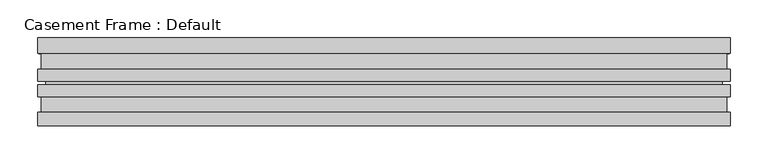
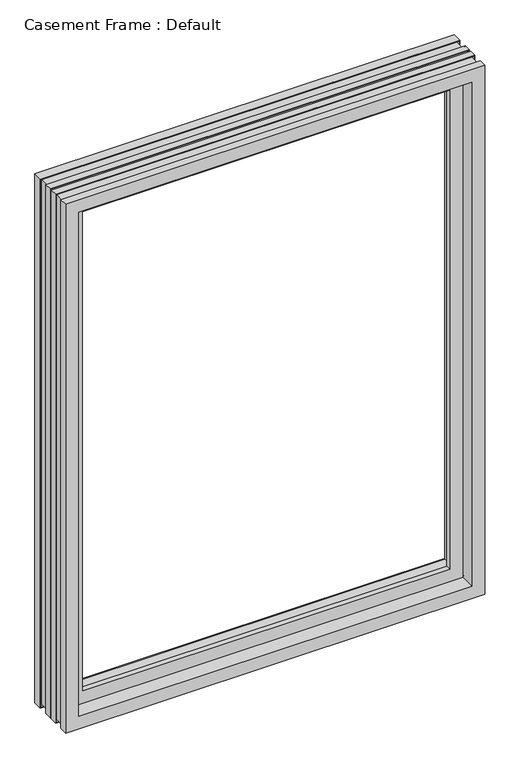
"""IFC4 building model written with IfcOpenShell, lengths in millimetres: proxy geometry, Casement Frame : Default."""

from ifc_helpers import new_model, si_unit, frame, origin, place, context, project, spatial, polyline, ellipse_curve, source, transform, mapped, element, save
from ifc_brep_helpers import plane_surface, revolved_surface, advanced_brep


def casement_frame_default_7da590ba(model_context):
    return source(origin(), model_context, "Body", "AdvancedBrep", [
        advanced_brep(
        [(428.625, -82.55, 790.575), (-428.625, -82.55, 790.575), (-428.625, -115.8875, 790.575), (428.625, -115.8875, 790.575), (400.05, -69.85, 819.15), (-400.05, -69.85, 819.15), (-400.05, -82.55, 819.15), (400.05, -82.55, 819.15), (428.625, -14.2875, 790.575), (-428.625, -14.2875, 790.575), (-428.625, -69.85, 790.575), (428.625, -69.85, 790.575), (-428.625, -82.55, 1952.625), (-428.625, -115.8875, 1952.625), (-400.05, -69.85, 1924.05), (-400.05, -82.55, 1924.05), (-428.625, -14.2875, 1952.625), (-428.625, -69.85, 1952.625), (428.625, -82.55, 1952.625), (428.625, -115.8875, 1952.625), (400.05, -69.85, 1924.05), (400.05, -82.55, 1924.05), (428.625, -14.2875, 1952.625), (428.625, -69.85, 1952.625), (457.2, 0.0, 762.0), (-457.2, 0.0, 762.0), (-457.2, 0.0, 1981.2), (457.2, 0.0, 1981.2), (-438.15, 0.0, 781.05), (438.15, 0.0, 781.05), (438.15, 0.0, 1962.15), (-438.15, 0.0, 1962.15), (-457.2, -115.8875, 762.0), (457.2, -115.8875, 762.0), (457.2, -115.8875, 1981.2), (-457.2, -115.8875, 1981.2), (-438.15, -14.2875, 781.05), (438.15, -14.2875, 781.05), (-438.15, -14.2875, 1962.15), (438.15, -14.2875, 1962.15), (457.2, -20.6375, 762.0), (-457.2, -20.6375, 762.0), (454.421875, -17.4625, 764.778125), (-454.421875, -17.4625, 764.778125), (-456.009375, -20.6375, 763.190625), (456.009375, -20.6375, 763.190625), (452.4375, -44.45, 766.7625), (-452.4375, -44.45, 766.7625), (-452.4375, -17.4625, 766.7625), (452.4375, -17.4625, 766.7625), (456.009375, -41.275, 763.190625), (-456.009375, -41.275, 763.190625), (-454.421875, -44.45, 764.778125), (454.421875, -44.45, 764.778125), (457.2, -57.15, 762.0), (-457.2, -57.15, 762.0), (-457.2, -41.275, 762.0), (457.2, -41.275, 762.0), (455.6125, -61.9125, 763.5875), (-455.6125, -61.9125, 763.5875), (-455.6125, -57.15, 763.5875), (455.6125, -57.15, 763.5875), (457.2, -77.7875, 762.0), (-457.2, -77.7875, 762.0), (-457.2, -61.9125, 762.0), (457.2, -61.9125, 762.0), (454.421875, -74.6125, 764.778125), (-454.421875, -74.6125, 764.778125), (-456.009375, -77.7875, 763.190625), (456.009375, -77.7875, 763.190625), (452.4375, -101.6, 766.7625), (-452.4375, -101.6, 766.7625), (-452.4375, -74.6125, 766.7625), (452.4375, -74.6125, 766.7625), (456.009375, -98.425, 763.190625), (-456.009375, -98.425, 763.190625), (-454.421875, -101.6, 764.778125), (454.421875, -101.6, 764.778125), (-457.2, -98.425, 762.0), (457.2, -98.425, 762.0), (-457.2, -20.6375, 1981.2), (-454.421875, -17.4625, 1978.421875), (-456.009375, -20.6375, 1980.009375), (-452.4375, -44.45, 1976.4375), (-452.4375, -17.4625, 1976.4375), (-456.009375, -41.275, 1980.009375), (-454.421875, -44.45, 1978.421875), (-457.2, -57.15, 1981.2), (-457.2, -41.275, 1981.2), (-455.6125, -61.9125, 1979.6125), (-455.6125, -57.15, 1979.6125), (-457.2, -77.7875, 1981.2), (-457.2, -61.9125, 1981.2), (-454.421875, -74.6125, 1978.421875), (-456.009375, -77.7875, 1980.009375), (-452.4375, -101.6, 1976.4375), (-452.4375, -74.6125, 1976.4375), (-456.009375, -98.425, 1980.009375), (-454.421875, -101.6, 1978.421875), (-457.2, -98.425, 1981.2), (457.2, -20.6375, 1981.2), (454.421875, -17.4625, 1978.421875), (456.009375, -20.6375, 1980.009375), (452.4375, -44.45, 1976.4375), (452.4375, -17.4625, 1976.4375), (456.009375, -41.275, 1980.009375), (454.421875, -44.45, 1978.421875), (457.2, -57.15, 1981.2), (457.2, -41.275, 1981.2), (455.6125, -61.9125, 1979.6125), (455.6125, -57.15, 1979.6125), (457.2, -77.7875, 1981.2), (457.2, -61.9125, 1981.2), (454.421875, -74.6125, 1978.421875), (456.009375, -77.7875, 1980.009375), (452.4375, -101.6, 1976.4375), (452.4375, -74.6125, 1976.4375), (456.009375, -98.425, 1980.009375), (454.421875, -101.6, 1978.421875), (457.2, -98.425, 1981.2)],
        [
            (0, 1),
            (1, 2),
            (2, 3),
            (3, 0),
            (4, 5),
            (5, 6),
            (6, 7),
            (7, 4),
            (8, 9),
            (9, 10),
            (10, 11),
            (11, 8),
            (1, 12),
            (12, 13),
            (13, 2),
            (5, 14),
            (14, 15),
            (15, 6),
            (9, 16),
            (16, 17),
            (17, 10),
            (12, 18),
            (18, 19),
            (19, 13),
            (14, 20),
            (20, 21),
            (21, 15),
            (16, 22),
            (22, 23),
            (23, 17),
            (18, 0),
            (3, 19),
            (21, 7),
            (20, 4),
            (23, 11),
            (22, 8),
            (24, 25),
            (25, 26),
            (26, 27),
            (27, 24),
            (28, 29),
            (29, 30),
            (30, 31),
            (31, 28),
            (32, 33),
            (33, 34),
            (34, 35),
            (35, 32),
            (28, 36),
            (36, 37),
            (37, 29),
            (31, 38),
            (38, 36),
            (30, 39),
            (39, 38),
            (39, 37),
            (40, 41),
            (41, 25),
            (24, 40),
            (42, 43),
            (43, 44),
            (44, 45),
            (45, 42),
            (46, 47),
            (47, 48),
            (48, 49),
            (49, 46),
            (50, 51),
            (51, 52),
            (52, 53),
            (53, 50),
            (54, 55),
            (55, 56),
            (56, 57),
            (57, 54),
            (58, 59),
            (59, 60, ellipse_curve(frame((-451.488054, -59.53125, 767.711946), z_axis=(-0.7071067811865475, 0.0, 0.7071067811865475), x_axis=(-0.7071067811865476, 0.0, -0.7071067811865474)), 6.7351921, 4.7625)),
            (60, 61),
            (61, 58, ellipse_curve(frame((451.488054, -59.53125, 767.711946), z_axis=(0.7071067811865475, 0.0, 0.7071067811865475), x_axis=(-0.7071067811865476, 0.0, 0.7071067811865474)), 6.7351921, 4.7625)),
            (62, 63),
            (63, 64),
            (64, 65),
            (65, 62),
            (66, 67),
            (67, 68),
            (68, 69),
            (69, 66),
            (70, 71),
            (71, 72),
            (72, 73),
            (73, 70),
            (74, 75),
            (75, 76),
            (76, 77),
            (77, 74),
            (32, 78),
            (78, 79),
            (79, 33),
            (41, 80),
            (80, 26),
            (43, 81),
            (81, 82),
            (82, 44),
            (47, 83),
            (83, 84),
            (84, 48),
            (51, 85),
            (85, 86),
            (86, 52),
            (55, 87),
            (87, 88),
            (88, 56),
            (59, 89),
            (89, 90, ellipse_curve(frame((-451.488054, -59.53125, 1975.488054), z_axis=(0.7071067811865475, 0.0, 0.7071067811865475), x_axis=(-0.7071067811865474, 0.0, 0.7071067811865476)), 6.7351921, 4.7625)),
            (90, 60),
            (63, 91),
            (91, 92),
            (92, 64),
            (67, 93),
            (93, 94),
            (94, 68),
            (71, 95),
            (95, 96),
            (96, 72),
            (75, 97),
            (97, 98),
            (98, 76),
            (35, 99),
            (99, 78),
            (80, 100),
            (100, 27),
            (81, 101),
            (101, 102),
            (102, 82),
            (83, 103),
            (103, 104),
            (104, 84),
            (85, 105),
            (105, 106),
            (106, 86),
            (87, 107),
            (107, 108),
            (108, 88),
            (89, 109),
            (109, 110, ellipse_curve(frame((451.488054, -59.53125, 1975.488054), z_axis=(0.7071067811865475, 0.0, -0.7071067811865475), x_axis=(0.7071067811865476, 0.0, 0.7071067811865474)), 6.7351921, 4.7625)),
            (110, 90),
            (91, 111),
            (111, 112),
            (112, 92),
            (93, 113),
            (113, 114),
            (114, 94),
            (95, 115),
            (115, 116),
            (116, 96),
            (97, 117),
            (117, 118),
            (118, 98),
            (34, 119),
            (119, 99),
            (100, 40),
            (102, 45),
            (101, 42),
            (104, 49),
            (103, 46),
            (106, 53),
            (105, 50),
            (108, 57),
            (107, 54),
            (110, 61),
            (109, 58),
            (112, 65),
            (111, 62),
            (114, 69),
            (113, 66),
            (116, 73),
            (115, 70),
            (118, 77),
            (117, 74),
            (119, 79),
        ],
        [
            plane_surface(frame((428.625, -115.8875, 790.575), z_axis=(0.0, 0.0, 1.0), x_axis=(-1.0, 0.0, 0.0))),
            plane_surface(frame((400.05, -82.55, 819.15), z_axis=(0.0, 0.0, 1.0), x_axis=(-1.0, 0.0, 0.0))),
            plane_surface(frame((428.625, -69.85, 790.575), z_axis=(0.0, 0.0, 1.0), x_axis=(-1.0, 0.0, 0.0))),
            plane_surface(frame((-428.625, -115.8875, 790.575), z_axis=(1.0, 0.0, 0.0), x_axis=(0.0, 0.0, 1.0))),
            plane_surface(frame((-400.05, -82.55, 819.15), z_axis=(1.0, 0.0, 0.0), x_axis=(0.0, 0.0, 1.0))),
            plane_surface(frame((-428.625, -69.85, 790.575), z_axis=(1.0, 0.0, 0.0), x_axis=(0.0, 0.0, 1.0))),
            plane_surface(frame((-428.625, -115.8875, 1952.625), z_axis=(0.0, 0.0, -1.0), x_axis=(1.0, 0.0, 0.0))),
            plane_surface(frame((-400.05, -82.55, 1924.05), z_axis=(0.0, 0.0, -1.0), x_axis=(1.0, 0.0, 0.0))),
            plane_surface(frame((-428.625, -69.85, 1952.625), z_axis=(0.0, 0.0, -1.0), x_axis=(1.0, 0.0, 0.0))),
            plane_surface(frame((428.625, -115.8875, 1952.625), z_axis=(-1.0, 0.0, 0.0), x_axis=(0.0, 0.0, -1.0))),
            plane_surface(frame((428.625, -82.55, 1952.625), z_axis=(0.0, -1.0, 0.0), x_axis=(0.0, 0.0, -1.0))),
            plane_surface(frame((400.05, -82.55, 1924.05), z_axis=(-1.0, 0.0, 0.0), x_axis=(0.0, 0.0, -1.0))),
            plane_surface(frame((400.05, -69.85, 1924.05), z_axis=(0.0, 1.0, 0.0), x_axis=(0.0, 0.0, -1.0))),
            plane_surface(frame((428.625, -69.85, 1952.625), z_axis=(-1.0, 0.0, 0.0), x_axis=(0.0, 0.0, -1.0))),
            plane_surface(frame((438.15, 0.0, 1962.15), z_axis=(0.0, 1.0, 0.0), x_axis=(0.0, 0.0, -1.0))),
            plane_surface(frame((457.2, -115.8875, 1981.2), z_axis=(0.0, -1.0, 0.0), x_axis=(0.0, 0.0, -1.0))),
            plane_surface(frame((438.15, -14.2875, 781.05), z_axis=(0.0, 0.0, 1.0), x_axis=(-1.0, 0.0, 0.0))),
            plane_surface(frame((-438.15, -14.2875, 781.05), z_axis=(1.0, 0.0, 0.0), x_axis=(0.0, 0.0, 1.0))),
            plane_surface(frame((-438.15, -14.2875, 1962.15), z_axis=(0.0, 0.0, -1.0), x_axis=(1.0, 0.0, 0.0))),
            plane_surface(frame((428.625, -14.2875, 1952.625), z_axis=(0.0, 1.0, 0.0), x_axis=(0.0, 0.0, -1.0))),
            plane_surface(frame((438.15, -14.2875, 1962.15), z_axis=(-1.0, 0.0, 0.0), x_axis=(0.0, 0.0, -1.0))),
            plane_surface(frame((457.2, 0.0, 762.0), z_axis=(0.0, 0.0, -1.0), x_axis=(-1.0, 0.0, 0.0))),
            plane_surface(frame((456.009375, -20.6375, 763.190625), z_axis=(0.0, -0.44721359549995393, 0.894427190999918), x_axis=(-1.0, 0.0, 0.0))),
            plane_surface(frame((452.4375, -17.4625, 766.7625), z_axis=(0.0, 0.0, -1.0), x_axis=(-1.0, 0.0, 0.0))),
            plane_surface(frame((454.421875, -44.45, 764.778125), z_axis=(0.0, 0.44721359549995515, 0.8944271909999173), x_axis=(-1.0, 0.0, 0.0))),
            plane_surface(frame((457.2, -41.275, 762.0), z_axis=(0.0, 0.0, -1.0), x_axis=(-1.0, 0.0, 0.0))),
            revolved_surface(polyline([(-456.25055400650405, -54.76875, 767.711946), (456.25055400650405, -54.76875, 767.711946)]), (457.2, -59.53125, 767.711946), (-1.0, 0.0, 0.0)),
            plane_surface(frame((457.2, -61.9125, 762.0), z_axis=(0.0, 0.0, -1.0), x_axis=(-1.0, 0.0, 0.0))),
            plane_surface(frame((456.009375, -77.7875, 763.190625), z_axis=(0.0, -0.44721359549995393, 0.894427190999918), x_axis=(-1.0, 0.0, 0.0))),
            plane_surface(frame((452.4375, -74.6125, 766.7625), z_axis=(0.0, 0.0, -1.0), x_axis=(-1.0, 0.0, 0.0))),
            plane_surface(frame((454.421875, -101.6, 764.778125), z_axis=(0.0, 0.44721359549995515, 0.8944271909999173), x_axis=(-1.0, 0.0, 0.0))),
            plane_surface(frame((457.2, -98.425, 762.0), z_axis=(0.0, 0.0, -1.0), x_axis=(-1.0, 0.0, 0.0))),
            plane_surface(frame((-457.2, 0.0, 762.0), z_axis=(-1.0, 0.0, 0.0), x_axis=(0.0, 0.0, 1.0))),
            plane_surface(frame((-456.009375, -20.6375, 763.190625), z_axis=(0.8944271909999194, -0.44721359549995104, 0.0), x_axis=(0.0, 0.0, 1.0))),
            plane_surface(frame((-452.4375, -17.4625, 766.7625), z_axis=(-1.0, 0.0, 0.0), x_axis=(0.0, 0.0, 1.0))),
            plane_surface(frame((-454.421875, -44.45, 764.778125), z_axis=(0.8944271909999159, 0.44721359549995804, 0.0), x_axis=(0.0, 0.0, 1.0))),
            plane_surface(frame((-457.2, -41.275, 762.0), z_axis=(-1.0, 0.0, 0.0), x_axis=(0.0, 0.0, 1.0))),
            revolved_surface(polyline([(-451.488054, -54.76875, 1980.250554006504), (-451.488054, -54.76875, 762.9494459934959)]), (-451.488054, -59.53125, 762.0), (0.0, 0.0, 1.0)),
            plane_surface(frame((-457.2, -61.9125, 762.0), z_axis=(-1.0, 0.0, 0.0), x_axis=(0.0, 0.0, 1.0))),
            plane_surface(frame((-456.009375, -77.7875, 763.190625), z_axis=(0.8944271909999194, -0.44721359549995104, 0.0), x_axis=(0.0, 0.0, 1.0))),
            plane_surface(frame((-452.4375, -74.6125, 766.7625), z_axis=(-1.0, 0.0, 0.0), x_axis=(0.0, 0.0, 1.0))),
            plane_surface(frame((-454.421875, -101.6, 764.778125), z_axis=(0.8944271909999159, 0.44721359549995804, 0.0), x_axis=(0.0, 0.0, 1.0))),
            plane_surface(frame((-457.2, -98.425, 762.0), z_axis=(-1.0, 0.0, 0.0), x_axis=(0.0, 0.0, 1.0))),
            plane_surface(frame((-457.2, 0.0, 1981.2), z_axis=(0.0, 0.0, 1.0), x_axis=(1.0, 0.0, 0.0))),
            plane_surface(frame((-456.009375, -20.6375, 1980.009375), z_axis=(0.0, -0.44721359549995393, -0.894427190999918), x_axis=(1.0, 0.0, 0.0))),
            plane_surface(frame((-452.4375, -17.4625, 1976.4375), z_axis=(0.0, 0.0, 1.0), x_axis=(1.0, 0.0, 0.0))),
            plane_surface(frame((-454.421875, -44.45, 1978.421875), z_axis=(0.0, 0.44721359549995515, -0.8944271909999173), x_axis=(1.0, 0.0, 0.0))),
            plane_surface(frame((-457.2, -41.275, 1981.2), z_axis=(0.0, 0.0, 1.0), x_axis=(1.0, 0.0, 0.0))),
            revolved_surface(polyline([(456.25055400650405, -54.76875, 1975.488054), (-456.25055400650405, -54.76875, 1975.488054)]), (-457.2, -59.53125, 1975.488054), (1.0, 0.0, 0.0)),
            plane_surface(frame((-457.2, -61.9125, 1981.2), z_axis=(0.0, 0.0, 1.0), x_axis=(1.0, 0.0, 0.0))),
            plane_surface(frame((-456.009375, -77.7875, 1980.009375), z_axis=(0.0, -0.44721359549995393, -0.894427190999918), x_axis=(1.0, 0.0, 0.0))),
            plane_surface(frame((-452.4375, -74.6125, 1976.4375), z_axis=(0.0, 0.0, 1.0), x_axis=(1.0, 0.0, 0.0))),
            plane_surface(frame((-454.421875, -101.6, 1978.421875), z_axis=(0.0, 0.44721359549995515, -0.8944271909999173), x_axis=(1.0, 0.0, 0.0))),
            plane_surface(frame((-457.2, -98.425, 1981.2), z_axis=(0.0, 0.0, 1.0), x_axis=(1.0, 0.0, 0.0))),
            plane_surface(frame((457.2, 0.0, 1981.2), z_axis=(1.0, 0.0, 0.0), x_axis=(0.0, 0.0, -1.0))),
            plane_surface(frame((457.2, -20.6375, 1981.2), z_axis=(0.0, -1.0, 0.0), x_axis=(0.0, 0.0, -1.0))),
            plane_surface(frame((456.009375, -20.6375, 1980.009375), z_axis=(-0.8944271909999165, -0.4472135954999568, 0.0), x_axis=(0.0, 0.0, -1.0))),
            plane_surface(frame((454.421875, -17.4625, 1978.421875), z_axis=(0.0, -1.0, 0.0), x_axis=(0.0, 0.0, -1.0))),
            plane_surface(frame((452.4375, -17.4625, 1976.4375), z_axis=(1.0, 0.0, 0.0), x_axis=(0.0, 0.0, -1.0))),
            plane_surface(frame((452.4375, -44.45, 1976.4375), z_axis=(0.0, 1.0, 0.0), x_axis=(0.0, 0.0, -1.0))),
            plane_surface(frame((454.421875, -44.45, 1978.421875), z_axis=(-0.8944271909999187, 0.44721359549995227, 0.0), x_axis=(0.0, 0.0, -1.0))),
            plane_surface(frame((456.009375, -41.275, 1980.009375), z_axis=(0.0, 1.0, 0.0), x_axis=(0.0, 0.0, -1.0))),
            plane_surface(frame((457.2, -41.275, 1981.2), z_axis=(1.0, 0.0, 0.0), x_axis=(0.0, 0.0, -1.0))),
            plane_surface(frame((457.2, -57.15, 1981.2), z_axis=(0.0, -1.0, 0.0), x_axis=(0.0, 0.0, -1.0))),
            revolved_surface(polyline([(451.488054, -54.76875, 762.949445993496), (451.488054, -54.76875, 1980.250554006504)]), (451.488054, -59.53125, 1981.2), (0.0, 0.0, -1.0)),
            plane_surface(frame((455.6125, -61.9125, 1979.6125), z_axis=(0.0, 1.0, 0.0), x_axis=(0.0, 0.0, -1.0))),
            plane_surface(frame((457.2, -61.9125, 1981.2), z_axis=(1.0, 0.0, 0.0), x_axis=(0.0, 0.0, -1.0))),
            plane_surface(frame((457.2, -77.7875, 1981.2), z_axis=(0.0, -1.0, 0.0), x_axis=(0.0, 0.0, -1.0))),
            plane_surface(frame((456.009375, -77.7875, 1980.009375), z_axis=(-0.8944271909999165, -0.4472135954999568, 0.0), x_axis=(0.0, 0.0, -1.0))),
            plane_surface(frame((454.421875, -74.6125, 1978.421875), z_axis=(0.0, -1.0, 0.0), x_axis=(0.0, 0.0, -1.0))),
            plane_surface(frame((452.4375, -74.6125, 1976.4375), z_axis=(1.0, 0.0, 0.0), x_axis=(0.0, 0.0, -1.0))),
            plane_surface(frame((452.4375, -101.6, 1976.4375), z_axis=(0.0, 1.0, 0.0), x_axis=(0.0, 0.0, -1.0))),
            plane_surface(frame((454.421875, -101.6, 1978.421875), z_axis=(-0.8944271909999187, 0.44721359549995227, 0.0), x_axis=(0.0, 0.0, -1.0))),
            plane_surface(frame((456.009375, -98.425, 1980.009375), z_axis=(0.0, 1.0, 0.0), x_axis=(0.0, 0.0, -1.0))),
            plane_surface(frame((457.2, -98.425, 1981.2), z_axis=(1.0, 0.0, 0.0), x_axis=(0.0, 0.0, -1.0))),
        ],
        [
            (0, [[1, 2, 3, 4]]),
            (1, [[5, 6, 7, 8]]),
            (2, [[9, 10, 11, 12]]),
            (3, [[13, 14, 15, -2]]),
            (4, [[16, 17, 18, -6]]),
            (5, [[19, 20, 21, -10]]),
            (6, [[22, 23, 24, -14]]),
            (7, [[25, 26, 27, -17]]),
            (8, [[28, 29, 30, -20]]),
            (9, [[31, -4, 32, -23]]),
            (10, [[-1, -31, -22, -13], [-7, -18, -27, 33]]),
            (11, [[34, -8, -33, -26]]),
            (12, [[-11, -21, -30, 35], [-5, -34, -25, -16]]),
            (13, [[36, -12, -35, -29]]),
            (14, [[37, 38, 39, 40], [41, 42, 43, 44]]),
            (15, [[45, 46, 47, 48], [-3, -15, -24, -32]]),
            (16, [[-41, 49, 50, 51]]),
            (17, [[-44, 52, 53, -49]]),
            (18, [[-43, 54, 55, -52]]),
            (19, [[-50, -53, -55, 56], [-9, -36, -28, -19]]),
            (20, [[-42, -51, -56, -54]]),
            (21, [[57, 58, -37, 59]]),
            (22, [[60, 61, 62, 63]]),
            (23, [[64, 65, 66, 67]]),
            (24, [[68, 69, 70, 71]]),
            (25, [[72, 73, 74, 75]]),
            (26, [[76, 77, 78, 79]]),
            (27, [[80, 81, 82, 83]]),
            (28, [[84, 85, 86, 87]]),
            (29, [[88, 89, 90, 91]]),
            (30, [[92, 93, 94, 95]]),
            (31, [[-45, 96, 97, 98]]),
            (32, [[99, 100, -38, -58]]),
            (33, [[101, 102, 103, -61]]),
            (34, [[104, 105, 106, -65]]),
            (35, [[107, 108, 109, -69]]),
            (36, [[110, 111, 112, -73]]),
            (37, [[113, 114, 115, -77]]),
            (38, [[116, 117, 118, -81]]),
            (39, [[119, 120, 121, -85]]),
            (40, [[122, 123, 124, -89]]),
            (41, [[125, 126, 127, -93]]),
            (42, [[-48, 128, 129, -96]]),
            (43, [[130, 131, -39, -100]]),
            (44, [[132, 133, 134, -102]]),
            (45, [[135, 136, 137, -105]]),
            (46, [[138, 139, 140, -108]]),
            (47, [[141, 142, 143, -111]]),
            (48, [[144, 145, 146, -114]]),
            (49, [[147, 148, 149, -117]]),
            (50, [[150, 151, 152, -120]]),
            (51, [[153, 154, 155, -123]]),
            (52, [[156, 157, 158, -126]]),
            (53, [[-47, 159, 160, -128]]),
            (54, [[161, -59, -40, -131]]),
            (55, [[-57, -161, -130, -99], [-62, -103, -134, 162]]),
            (56, [[163, -63, -162, -133]]),
            (57, [[-60, -163, -132, -101], [-66, -106, -137, 164]]),
            (58, [[165, -67, -164, -136]]),
            (59, [[-70, -109, -140, 166], [-64, -165, -135, -104]]),
            (60, [[167, -71, -166, -139]]),
            (61, [[-74, -112, -143, 168], [-68, -167, -138, -107]]),
            (62, [[169, -75, -168, -142]]),
            (63, [[-72, -169, -141, -110], [-78, -115, -146, 170]]),
            (64, [[171, -79, -170, -145]]),
            (65, [[-82, -118, -149, 172], [-76, -171, -144, -113]]),
            (66, [[173, -83, -172, -148]]),
            (67, [[-80, -173, -147, -116], [-86, -121, -152, 174]]),
            (68, [[175, -87, -174, -151]]),
            (69, [[-84, -175, -150, -119], [-90, -124, -155, 176]]),
            (70, [[177, -91, -176, -154]]),
            (71, [[-94, -127, -158, 178], [-88, -177, -153, -122]]),
            (72, [[179, -95, -178, -157]]),
            (73, [[-97, -129, -160, 180], [-92, -179, -156, -125]]),
            (74, [[-46, -98, -180, -159]]),
        ],
    ),
    ])


if __name__ == "__main__":
    model = new_model("IFC4")
    model_context = context("Model", 3, world=origin())
    ifc_project = project(units=[si_unit("LENGTHUNIT", "METRE", prefix="MILLI")], contexts=[model_context])
    site = spatial("IfcSite", under=ifc_project)
    building = spatial("IfcBuilding", under=site)
    placement = place(None, origin())
    casement_frame_default_shape = casement_frame_default_7da590ba(model_context)
    element("IfcBuildingElementProxy", 1, Name="Casement Frame : Default", ObjectType="Casement Frame : Default", at=placement, inside=building, context=model_context, shape_type="MappedRepresentation", body=[
        mapped(casement_frame_default_shape, transform((0.0, 0.0, 0.0), x_axis=(1.0, 0.0, 0.0), y_axis=(0.0, 1.0, 0.0), z_axis=(0.0, 0.0, 1.0))),
    ])
    save(model, "model.ifc")
